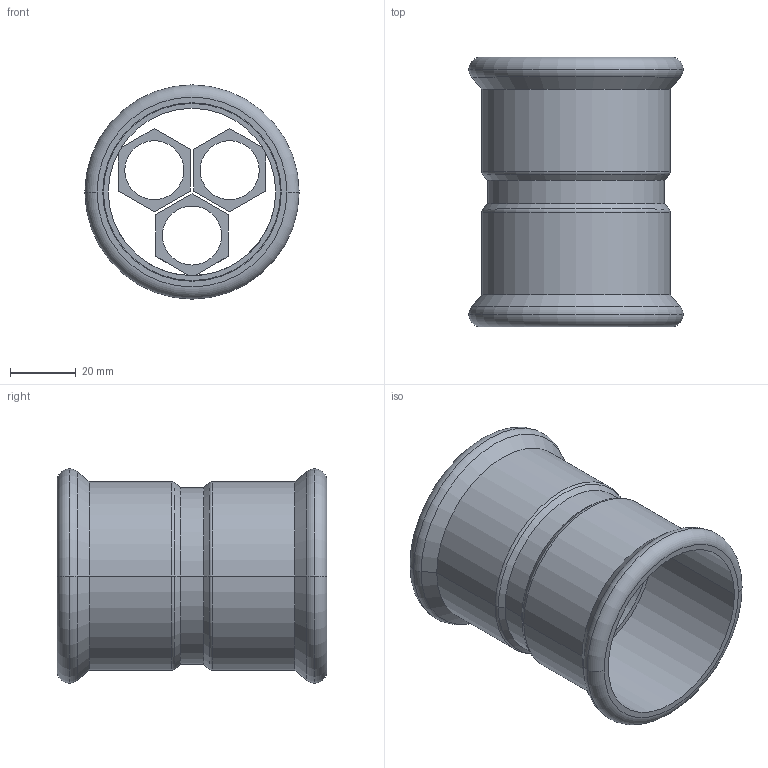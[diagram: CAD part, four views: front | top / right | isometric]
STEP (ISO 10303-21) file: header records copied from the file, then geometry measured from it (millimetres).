
FILE_DESCRIPTION(('OneSpaceDesigner STEP Export'),'2;1');
FILE_NAME('R2701 54x54.stp','2010-06-08T13:19:07',(''),(''),'OneSpace Designer STEP processor for AP214 (Solid Model)','OneSpace Modeling 15.00A 14-Mar-2007 (C) CoCreate Software GmbH','');
FILE_SCHEMA(('AUTOMOTIVE_DESIGN { 1 0 10303 214 1 1 1 1 }'));
Length unit declared in the file: millimetre
Products named in the file (2): R2701_54x54
Assembly tree (1 placements, depth 2):
  R2701_54x54
    R2701_54x54
Bounding box: 65.3 x 82.2 x 65.3 mm (x, y, z)
Volume: 34194.3 mm3; surface area: 35535.9 mm2
Topology: 1 solids, 1 shells, 114 faces, 284 edges, 182 vertices
Faces by surface type: plane 60, cylinder 34, torus 12, cone 8
Entity records: 3025 total; most frequent: ORIENTED_EDGE 568, CARTESIAN_POINT 492, DIRECTION 446, EDGE_CURVE 284, VERTEX_POINT 182, VECTOR 174, LINE 174, EDGE_LOOP 138
